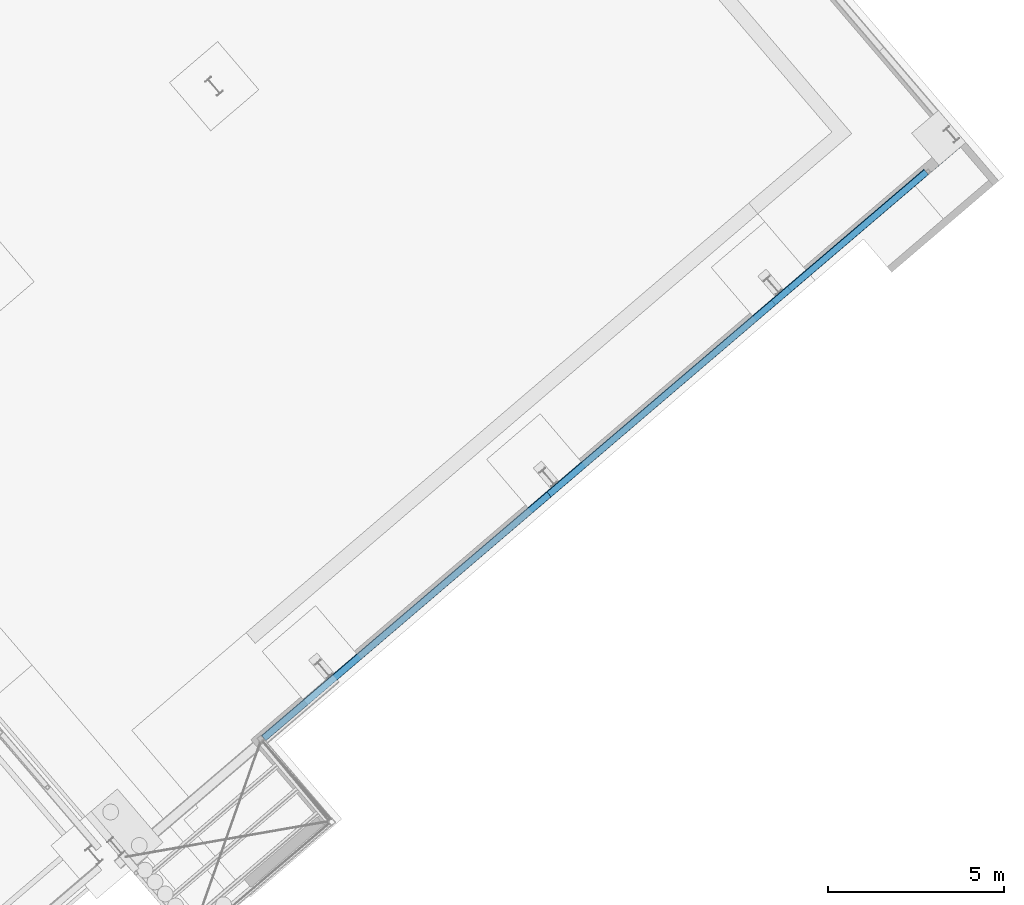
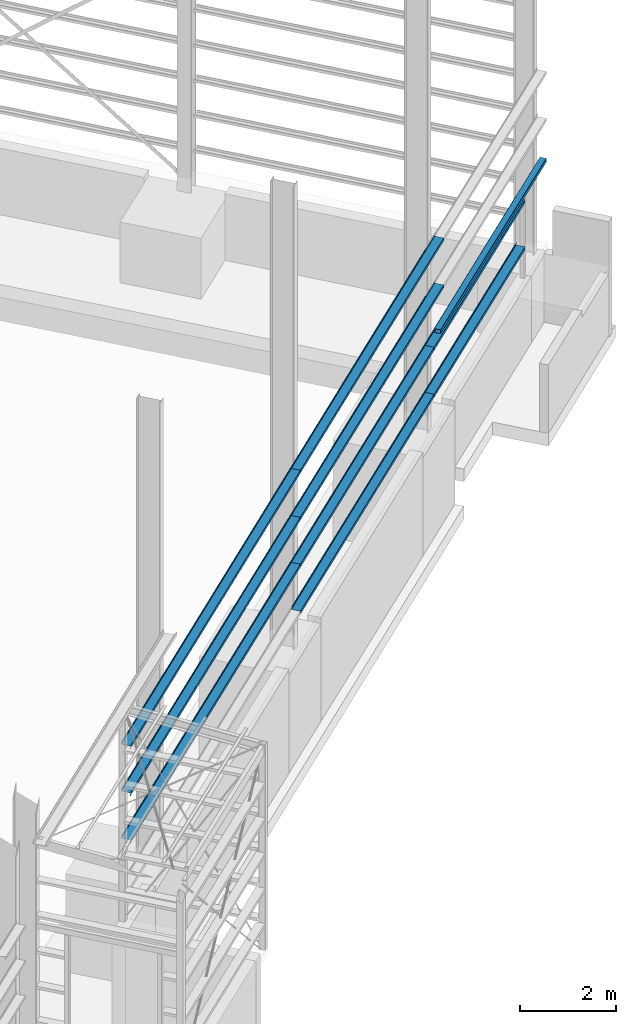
# One storey, part 23 of 41: 9 members, 1 beam.
"""IFC2X3 building model written with IfcOpenShell, lengths in millimetres."""

from ifc_helpers import new_model, entity, si_unit, converted_unit, derived_unit, direction, frame, frame_2d, origin, place, context, subcontext, project, spatial, polyline, circle_curve, parameter, trimmed, segment, composite_curve, outline, extrude, source, transform, mapped, material, type_object, type_shapes, element, save


model = new_model("IFC2X3")

# Units and contexts
model_context = context("Model", 3, precision=0.01, world=origin(), true_north=direction((6.123031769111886e-17, 1.0)))
body_context = subcontext(model_context, "Body", "Model", "MODEL_VIEW")
ifc_project = project(units=[si_unit("LENGTHUNIT", "METRE", prefix="MILLI"), si_unit("AREAUNIT", "SQUARE_METRE"), si_unit("VOLUMEUNIT", "CUBIC_METRE"), converted_unit("PLANEANGLEUNIT", "DEGREE", entity("IfcRatioMeasure", 0.017453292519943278), si_unit("PLANEANGLEUNIT", "RADIAN"), dimensions=[0, 0, 0, 0, 0, 0, 0]), si_unit("MASSUNIT", "GRAM", prefix="KILO"), derived_unit("MASSDENSITYUNIT", [(si_unit("MASSUNIT", "GRAM", prefix="KILO"), 1), (si_unit("LENGTHUNIT", "METRE"), -3)]), derived_unit("MOMENTOFINERTIAUNIT", [(si_unit("LENGTHUNIT", "METRE"), 4)]), si_unit("TIMEUNIT", "SECOND"), si_unit("FREQUENCYUNIT", "HERTZ"), si_unit("THERMODYNAMICTEMPERATUREUNIT", "DEGREE_CELSIUS"), derived_unit("THERMALTRANSMITTANCEUNIT", [(si_unit("MASSUNIT", "GRAM", prefix="KILO"), 1), (si_unit("THERMODYNAMICTEMPERATUREUNIT", "KELVIN"), -1), (si_unit("TIMEUNIT", "SECOND"), -3)]), derived_unit("VOLUMETRICFLOWRATEUNIT", [(si_unit("LENGTHUNIT", "METRE"), 3), (si_unit("TIMEUNIT", "SECOND"), -1)]), derived_unit("MASSFLOWRATEUNIT", [(si_unit("MASSUNIT", "GRAM", prefix="KILO"), 1), (si_unit("TIMEUNIT", "SECOND"), -1)]), derived_unit("ROTATIONALFREQUENCYUNIT", [(si_unit("TIMEUNIT", "SECOND"), -1)]), si_unit("ELECTRICCURRENTUNIT", "AMPERE"), si_unit("ELECTRICVOLTAGEUNIT", "VOLT"), si_unit("POWERUNIT", "WATT"), si_unit("FORCEUNIT", "NEWTON", prefix="KILO"), si_unit("ILLUMINANCEUNIT", "LUX"), si_unit("LUMINOUSFLUXUNIT", "LUMEN"), si_unit("LUMINOUSINTENSITYUNIT", "CANDELA"), derived_unit("USERDEFINED", [(si_unit("MASSUNIT", "GRAM", prefix="KILO"), -1), (si_unit("LENGTHUNIT", "METRE"), -2), (si_unit("TIMEUNIT", "SECOND"), 3), (si_unit("LUMINOUSFLUXUNIT", "LUMEN"), 1)]), derived_unit("SOUNDPOWERUNIT", [(si_unit("MASSUNIT", "GRAM", prefix="KILO"), 1), (si_unit("LENGTHUNIT", "METRE"), 2), (si_unit("TIMEUNIT", "SECOND"), -3)]), derived_unit("LINEARVELOCITYUNIT", [(si_unit("LENGTHUNIT", "METRE"), 1), (si_unit("TIMEUNIT", "SECOND"), -1)]), si_unit("PRESSUREUNIT", "PASCAL"), derived_unit("USERDEFINED", [(si_unit("LENGTHUNIT", "METRE"), -2), (si_unit("MASSUNIT", "GRAM", prefix="KILO"), 1), (si_unit("TIMEUNIT", "SECOND"), -2)]), derived_unit("LINEARFORCEUNIT", [(si_unit("MASSUNIT", "GRAM", prefix="KILO"), 1), (si_unit("LENGTHUNIT", "METRE"), 1), (si_unit("TIMEUNIT", "SECOND"), -2), (si_unit("LENGTHUNIT", "METRE"), -1)]), derived_unit("PLANARFORCEUNIT", [(si_unit("MASSUNIT", "GRAM", prefix="KILO"), 1), (si_unit("LENGTHUNIT", "METRE"), 1), (si_unit("TIMEUNIT", "SECOND"), -2), (si_unit("LENGTHUNIT", "METRE"), -2)])], contexts=[model_context])

# Site, building, storey
site_placement = place(None, frame((962.4174930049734, -6014.433753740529, 0.0), z_axis=(0.0, 0.0, 1.0), x_axis=(0.7601792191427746, 0.649713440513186, 0.0)))
site = spatial("IfcSite", under=ifc_project, at=site_placement, Name="Default", CompositionType="ELEMENT")
building_placement = place(site_placement, origin())
building = spatial("IfcBuilding", under=site, at=building_placement, CompositionType="ELEMENT")
storey_placement = place(building_placement, origin())
storey = spatial("IfcBuildingStorey", under=building, at=storey_placement, Name="Datum", CompositionType="ELEMENT", Elevation=0.0)

# Beam
ifc_material_1 = material(Name="Metal - Steel - 300 MPa")
beam_type = type_object("IfcBeamType", Name="ADSK_AU_RHS-Rectangular Hollow Sections (AS 1163_C350):150x100x5.0RHS", PredefinedType="NOTDEFINED")
beam_placement = place(building_placement, frame((179139.97854851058, -26178.4280821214, 2150.0)))
element("IfcBeam", 1, at=beam_placement, inside=storey, type_object=beam_type, material=ifc_material_1, Name="ADSK_AU_RHS-Rectangular Hollow Sections (AS 1163_C350):150x100x5.0RHS", ObjectType="ADSK_AU_RHS-Rectangular Hollow Sections (AS 1163_C350):150x100x5.0RHS", context=body_context, shape_type="SweptSolid", body=[
    extrude(outline(composite_curve([segment(trimmed(circle_curve(frame_2d((-37.500000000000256, -62.50000000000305), x_axis=(1.0, 0.0)), 12.5), [parameter(180.00000000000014)], [parameter(269.99999999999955)], True, "PARAMETER"), True, "CONTINUOUS"), segment(polyline([(-37.50000000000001, -75.0), (37.50000000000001, -75.0)]), True, "CONTINUOUS"), segment(trimmed(circle_curve(frame_2d((37.49999999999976, -62.500000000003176), x_axis=(1.0, 0.0)), 12.5), [parameter(269.9999999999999)], [parameter(0.0)], True, "PARAMETER"), True, "CONTINUOUS"), segment(polyline([(50.0, -62.5000000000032), (50.0, 62.49999999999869)]), True, "CONTINUOUS"), segment(trimmed(circle_curve(frame_2d((37.499999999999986, 62.499999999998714), x_axis=(1.0, 0.0)), 12.5), [parameter(359.9999999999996)], [parameter(89.99999999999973)], True, "PARAMETER"), True, "CONTINUOUS"), segment(polyline([(37.50000000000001, 75.0), (-37.50000000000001, 75.0)]), True, "CONTINUOUS"), segment(trimmed(circle_curve(frame_2d((-37.50000000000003, 62.49999999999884), x_axis=(1.0, 0.0)), 12.5), [parameter(90.00000000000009)], [parameter(180.00000000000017)], True, "PARAMETER"), True, "CONTINUOUS"), segment(polyline([(-50.0, 62.49999999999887), (-50.0, -62.50000000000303)]), True, "CONTINUOUS")], self_intersect=False), holes=[composite_curve([segment(polyline([(37.500000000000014, -70.0), (-37.49999999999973, -70.0)]), True, "CONTINUOUS"), segment(trimmed(circle_curve(frame_2d((-37.499999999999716, -62.50000000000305), x_axis=(1.0, 0.0)), 7.5), [parameter(180.0000000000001)], [parameter(269.9999999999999)], True, "PARAMETER"), False, "CONTINUOUS"), segment(polyline([(-45.0, -62.500000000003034), (-45.0, 62.499999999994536)]), True, "CONTINUOUS"), segment(trimmed(circle_curve(frame_2d((-37.49999999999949, 62.49999999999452), x_axis=(1.0, 0.0)), 7.5), [parameter(90.00000000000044)], [parameter(180.0000000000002)], True, "PARAMETER"), False, "CONTINUOUS"), segment(polyline([(-37.49999999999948, 70.0), (37.49999999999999, 70.0)]), True, "CONTINUOUS"), segment(trimmed(circle_curve(frame_2d((37.499999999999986, 62.499999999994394), x_axis=(1.0, 0.0)), 7.5), [parameter(0.0)], [parameter(90.00000000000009)], True, "PARAMETER"), False, "CONTINUOUS"), segment(polyline([(45.0, 62.49999999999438), (45.0, -62.50000000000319)]), True, "CONTINUOUS"), segment(trimmed(circle_curve(frame_2d((37.49999999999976, -62.500000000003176), x_axis=(1.0, 0.0)), 7.5), [parameter(270.00000000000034)], [parameter(4.0711099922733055e-13)], True, "PARAMETER"), False, "CONTINUOUS")], self_intersect=False)]), frame((103.4816561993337, -75.0, 0.0), z_axis=(1.0, 0.0, 0.0), x_axis=(0.0, 0.0, 1.0)), (0.0, 0.0, 1.0), 6639.228446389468),
])

# Members
ifc_material_2 = material(Name="Metal - Steel - 345 MPa")
member_type_1 = type_object("IfcMemberType", Name="ADSK_AU_Light Gauge-Zeds:Z20012", PredefinedType="BRACE", material=ifc_material_2)
shared_shape_1 = source(origin(), body_context, "Body", "SweptSolid", [
    extrude(outline(composite_curve([segment(polyline([(-98.30000000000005, -66.44000000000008), (-82.0, -66.44000000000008)]), True, "CONTINUOUS"), segment(polyline([(-82.0, -66.44000000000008), (-82.0, -65.24000000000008)]), True, "CONTINUOUS"), segment(polyline([(-82.0, -65.24000000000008), (-98.29999999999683, -65.24000000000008)]), True, "CONTINUOUS"), segment(trimmed(circle_curve(frame_2d((-98.30000000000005, -63.24000000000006), x_axis=(0.0, -1.0)), 2.0000000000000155), [parameter(270.00000000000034)], [parameter(0.0)], True, "PARAMETER"), False, "CONTINUOUS"), segment(polyline([(-100.3, -63.24000000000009), (-100.29999999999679, -6.440000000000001)]), True, "CONTINUOUS"), segment(trimmed(circle_curve(frame_2d((-98.29999999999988, -6.439999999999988), x_axis=(-1.0, 0.0)), 1.9999999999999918), [parameter(269.9999999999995)], [parameter(0.0)], True, "PARAMETER"), False, "CONTINUOUS"), segment(polyline([(-98.29999999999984, -4.439999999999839), (98.30000000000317, -4.439999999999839)]), True, "CONTINUOUS"), segment(trimmed(circle_curve(frame_2d((98.29999999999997, -1.239999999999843), x_axis=(0.0, -1.0)), 3.199999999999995), [parameter(0.0)], [parameter(90.00000000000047)], True, "PARAMETER"), True, "CONTINUOUS"), segment(polyline([(101.49999999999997, -1.2399999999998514), (101.50000000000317, 68.3599999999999)]), True, "CONTINUOUS"), segment(trimmed(circle_curve(frame_2d((98.29999999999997, 68.35999999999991), x_axis=(1.0, 0.0)), 3.2000000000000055), [parameter(0.0)], [parameter(90.00000000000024)], True, "PARAMETER"), True, "CONTINUOUS"), segment(polyline([(98.3, 71.5599999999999), (82.0, 71.5599999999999)]), True, "CONTINUOUS"), segment(polyline([(82.0, 71.5599999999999), (82.0, 70.3599999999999)]), True, "CONTINUOUS"), segment(polyline([(82.0, 70.3599999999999), (98.30000000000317, 70.3599999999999)]), True, "CONTINUOUS"), segment(trimmed(circle_curve(frame_2d((98.29999999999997, 68.35999999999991), x_axis=(0.0, 1.0)), 1.9999999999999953), [parameter(269.99999999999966)], [parameter(0.0)], True, "PARAMETER"), False, "CONTINUOUS"), segment(polyline([(100.29999999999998, 68.3599999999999), (100.30000000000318, -1.2399999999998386)]), True, "CONTINUOUS"), segment(trimmed(circle_curve(frame_2d((98.29999999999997, -1.2399999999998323), x_axis=(1.0, 0.0)), 2.000000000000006), [parameter(270.00000000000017)], [parameter(0.0)], True, "PARAMETER"), False, "CONTINUOUS"), segment(polyline([(98.3, -3.2399999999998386), (-98.29999999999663, -3.2399999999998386)]), True, "CONTINUOUS"), segment(trimmed(circle_curve(frame_2d((-98.29999999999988, -6.439999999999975), x_axis=(0.0, 1.0)), 3.200000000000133), [parameter(0.0)], [parameter(90.00000000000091)], True, "PARAMETER"), True, "CONTINUOUS"), segment(polyline([(-101.5, -6.440000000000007), (-101.49999999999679, -63.24000000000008)]), True, "CONTINUOUS"), segment(trimmed(circle_curve(frame_2d((-98.30000000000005, -63.24000000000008), x_axis=(-1.0, 0.0)), 3.200000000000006), [parameter(0.0)], [parameter(90.00000000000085)], True, "PARAMETER"), True, "CONTINUOUS")], self_intersect=False)), frame((-4584.499999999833, 4.439999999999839, 0.0), z_axis=(1.0, 0.0, 0.0), x_axis=(0.0, 0.0, -1.0)), (0.0, 0.0, 1.0), 8999.999999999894),
])
type_shapes(member_type_1, [shared_shape_1])
for number, where, z_axis, x_axis, name in (
    (2, (175023.46020471, -26224.928082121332, 4422.39999999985), (0.0, 1.0, 0.0), (1.0, 0.0, 0.0), "ADSK_AU_Light Gauge-Zeds:Z20012"),
    (3, (175023.46020471, -26224.928082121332, 3222.39999999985), (0.0, 1.0, 0.0), (1.0, 0.0, 0.0), "ADSK_AU_Light Gauge-Zeds:Z20012"),
    (4, (175023.46020471, -26224.928082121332, 2022.3999999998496), (0.0, 1.0, 0.0), (1.0, 0.0, 0.0), "ADSK_AU_Light Gauge-Zeds:Z20012"),
    (5, (175023.46020471, -26224.928082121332, 822.3999999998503), (0.0, 1.0, 0.0), (1.0, 0.0, 0.0), "ADSK_AU_Light Gauge-Zeds:Z20012"),
):
    element("IfcMember", number, at=place(storey_placement, frame(where, z_axis=z_axis, x_axis=x_axis)), inside=storey, type_object=member_type_1, material=ifc_material_2, Name=name, ObjectType="ADSK_AU_Light Gauge-Zeds:Z20012", context=body_context, shape_type="MappedRepresentation", body=[
        mapped(shared_shape_1, transform((0.0, 0.0, 0.0), scale=1.0)),
    ])
member_type_2 = type_object("IfcMemberType", Name="ADSK_AU_Light Gauge-Zeds:Z20015", PredefinedType="BRACE", material=ifc_material_2)
shared_shape_2 = source(origin(), body_context, "Body", "SweptSolid", [
    extrude(outline(composite_curve([segment(polyline([(-98.0, -67.50000000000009), (-81.50000000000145, -67.50000000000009)]), True, "CONTINUOUS"), segment(polyline([(-81.49999999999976, -67.50000000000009), (-81.50000000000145, -66.0)]), True, "CONTINUOUS"), segment(polyline([(-81.49999999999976, -66.0), (-98.0, -66.0)]), True, "CONTINUOUS"), segment(trimmed(circle_curve(frame_2d((-98.0, -64.0), x_axis=(0.0, -1.0)), 1.9999999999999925), [parameter(269.99999999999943)], [parameter(0.0)], True, "PARAMETER"), False, "CONTINUOUS"), segment(polyline([(-100.0, -64.0), (-100.0, -6.500000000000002)]), True, "CONTINUOUS"), segment(trimmed(circle_curve(frame_2d((-98.0, -6.500000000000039), x_axis=(-1.0, 0.0)), 2.000000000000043), [parameter(270.000000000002)], [parameter(0.0)], True, "PARAMETER"), False, "CONTINUOUS"), segment(polyline([(-98.0, -4.499999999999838), (98.0, -4.499999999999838)]), True, "CONTINUOUS"), segment(trimmed(circle_curve(frame_2d((98.0, -1.0), x_axis=(0.0, -1.0)), 3.500000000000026), [parameter(0.0)], [parameter(89.99999999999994)], True, "PARAMETER"), True, "CONTINUOUS"), segment(polyline([(101.5, -1.0), (101.4999999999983, 69.0)]), True, "CONTINUOUS"), segment(trimmed(circle_curve(frame_2d((98.0, 69.0), x_axis=(1.0, 0.0)), 3.4999999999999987), [parameter(0.0)], [parameter(90.00000000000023)], True, "PARAMETER"), True, "CONTINUOUS"), segment(polyline([(98.0, 72.49999999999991), (81.499999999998, 72.49999999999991)]), True, "CONTINUOUS"), segment(polyline([(81.49999999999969, 72.49999999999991), (81.499999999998, 71.0)]), True, "CONTINUOUS"), segment(polyline([(81.49999999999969, 71.0), (98.0, 71.0)]), True, "CONTINUOUS"), segment(trimmed(circle_curve(frame_2d((98.0, 69.0), x_axis=(0.0, 1.0)), 2.000000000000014), [parameter(270.00000000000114)], [parameter(0.0)], True, "PARAMETER"), False, "CONTINUOUS"), segment(polyline([(100.0, 69.0), (100.0, -1.0)]), True, "CONTINUOUS"), segment(trimmed(circle_curve(frame_2d((98.0, -1.0), x_axis=(1.0, 0.0)), 1.9999999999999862), [parameter(269.99999999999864)], [parameter(0.0)], True, "PARAMETER"), False, "CONTINUOUS"), segment(polyline([(98.0, -3.0), (-98.0, -3.0)]), True, "CONTINUOUS"), segment(trimmed(circle_curve(frame_2d((-98.0, -6.5000000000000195), x_axis=(0.0, 1.0)), 3.500000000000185), [parameter(0.0)], [parameter(89.9999999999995)], True, "PARAMETER"), True, "CONTINUOUS"), segment(polyline([(-101.50000000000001, -6.500000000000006), (-101.5000000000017, -64.0)]), True, "CONTINUOUS"), segment(trimmed(circle_curve(frame_2d((-98.0, -64.0), x_axis=(-1.0, 0.0)), 3.4999999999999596), [parameter(0.0)], [parameter(90.00000000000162)], True, "PARAMETER"), True, "CONTINUOUS")], self_intersect=False)), frame((-1854.4999999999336, 4.499999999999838, 0.0), z_axis=(1.0, 0.0, 0.0), x_axis=(0.0, 0.0, -1.0)), (0.0, 0.0, 1.0), 5710.699999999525),
])
type_shapes(member_type_2, [shared_shape_2])
member_1_placement = place(storey_placement, frame((180693.46020471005, -26224.928082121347, 822.8999999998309), z_axis=(0.0, 1.0, 0.0), x_axis=(1.0, 0.0, 0.0)))
element("IfcMember", 6, at=member_1_placement, inside=storey, type_object=member_type_2, material=ifc_material_2, Name="ADSK_AU_Light Gauge-Zeds:Z20015", ObjectType="ADSK_AU_Light Gauge-Zeds:Z20015", context=body_context, shape_type="MappedRepresentation", body=[
    mapped(shared_shape_2, transform((0.0, 0.0, 0.0), scale=1.0)),
])
member_type_3 = type_object("IfcMemberType", Name="ADSK_AU_Light Gauge-Zeds:Z20015", PredefinedType="BRACE", material=ifc_material_2)
shared_shape_3 = source(origin(), body_context, "Body", "SweptSolid", [
    extrude(outline(composite_curve([segment(polyline([(-98.0, -67.50000000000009), (-81.49999999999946, -67.50000000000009)]), True, "CONTINUOUS"), segment(polyline([(-81.49999999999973, -67.50000000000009), (-81.49999999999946, -66.0)]), True, "CONTINUOUS"), segment(polyline([(-81.49999999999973, -66.0), (-98.0, -66.0)]), True, "CONTINUOUS"), segment(trimmed(circle_curve(frame_2d((-98.0, -64.0), x_axis=(0.0, -1.0)), 2.0000000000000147), [parameter(270.00000000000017)], [parameter(0.0)], True, "PARAMETER"), False, "CONTINUOUS"), segment(polyline([(-100.0, -64.0), (-100.0, -6.500000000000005)]), True, "CONTINUOUS"), segment(trimmed(circle_curve(frame_2d((-98.0, -6.500000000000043), x_axis=(-1.0, 0.0)), 2.000000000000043), [parameter(270.000000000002)], [parameter(0.0)], True, "PARAMETER"), False, "CONTINUOUS"), segment(polyline([(-98.0, -4.499999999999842), (98.0, -4.499999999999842)]), True, "CONTINUOUS"), segment(trimmed(circle_curve(frame_2d((98.0, -1.0), x_axis=(0.0, -1.0)), 3.500000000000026), [parameter(0.0)], [parameter(89.99999999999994)], True, "PARAMETER"), True, "CONTINUOUS"), segment(polyline([(101.49999999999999, -1.0), (101.50000000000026, 69.0)]), True, "CONTINUOUS"), segment(trimmed(circle_curve(frame_2d((98.0, 69.0), x_axis=(1.0, 0.0)), 3.4999999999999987), [parameter(0.0)], [parameter(90.00000000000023)], True, "PARAMETER"), True, "CONTINUOUS"), segment(polyline([(98.0, 72.49999999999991), (81.49999999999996, 72.49999999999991)]), True, "CONTINUOUS"), segment(polyline([(81.49999999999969, 72.49999999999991), (81.49999999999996, 71.0)]), True, "CONTINUOUS"), segment(polyline([(81.49999999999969, 71.0), (98.0, 71.0)]), True, "CONTINUOUS"), segment(trimmed(circle_curve(frame_2d((98.0, 69.0), x_axis=(0.0, 1.0)), 2.000000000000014), [parameter(270.00000000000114)], [parameter(0.0)], True, "PARAMETER"), False, "CONTINUOUS"), segment(polyline([(100.0, 69.0), (100.0, -1.0)]), True, "CONTINUOUS"), segment(trimmed(circle_curve(frame_2d((98.0, -1.0), x_axis=(1.0, 0.0)), 1.9999999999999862), [parameter(269.99999999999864)], [parameter(0.0)], True, "PARAMETER"), False, "CONTINUOUS"), segment(polyline([(98.0, -3.0), (-98.0, -3.0)]), True, "CONTINUOUS"), segment(trimmed(circle_curve(frame_2d((-98.0, -6.499999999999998), x_axis=(0.0, 1.0)), 3.5000000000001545), [parameter(0.0)], [parameter(89.99999999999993)], True, "PARAMETER"), True, "CONTINUOUS"), segment(polyline([(-101.50000000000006, -6.50000000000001), (-101.49999999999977, -64.0)]), True, "CONTINUOUS"), segment(trimmed(circle_curve(frame_2d((-98.0, -64.0), x_axis=(-1.0, 0.0)), 3.500000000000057), [parameter(0.0)], [parameter(89.99999999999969)], True, "PARAMETER"), True, "CONTINUOUS")], self_intersect=False)), frame((-3654.4999999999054, 4.499999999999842, 0.0), z_axis=(1.0, 0.0, 0.0), x_axis=(0.0, 0.0, -1.0)), (0.0, 0.0, 1.0), 5710.699999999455),
])
type_shapes(member_type_3, [shared_shape_3])
member_2_placement = place(storey_placement, frame((182493.46020471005, -26224.928082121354, 2022.8999999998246), z_axis=(0.0, 1.0, 0.0), x_axis=(1.0, 0.0, 0.0)))
element("IfcMember", 7, at=member_2_placement, inside=storey, type_object=member_type_3, material=ifc_material_2, Name="ADSK_AU_Light Gauge-Zeds:Z20015", ObjectType="ADSK_AU_Light Gauge-Zeds:Z20015", context=body_context, shape_type="MappedRepresentation", body=[
    mapped(shared_shape_3, transform((0.0, 0.0, 0.0), scale=1.0)),
])
member_type_4 = type_object("IfcMemberType", Name="ADSK_AU_Light Gauge-Zeds:Z20012", PredefinedType="BRACE", material=ifc_material_2)
shared_shape_4 = source(origin(), body_context, "Body", "SweptSolid", [
    extrude(outline(composite_curve([segment(polyline([(-98.30000000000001, -66.44000000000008), (-82.0, -66.44000000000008)]), True, "CONTINUOUS"), segment(polyline([(-82.0, -66.44000000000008), (-82.0, -65.24000000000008)]), True, "CONTINUOUS"), segment(polyline([(-82.0, -65.24000000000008), (-98.29999999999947, -65.24000000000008)]), True, "CONTINUOUS"), segment(trimmed(circle_curve(frame_2d((-98.30000000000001, -63.24000000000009), x_axis=(0.0, -1.0)), 1.999999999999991), [parameter(269.99999999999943)], [parameter(0.0)], True, "PARAMETER"), False, "CONTINUOUS"), segment(polyline([(-100.3, -63.24000000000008), (-100.29999999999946, -6.439999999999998)]), True, "CONTINUOUS"), segment(trimmed(circle_curve(frame_2d((-98.29999999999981, -6.440000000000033), x_axis=(-1.0, 0.0)), 2.000000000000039), [parameter(270.0000000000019)], [parameter(0.0)], True, "PARAMETER"), False, "CONTINUOUS"), segment(polyline([(-98.29999999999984, -4.439999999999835), (98.30000000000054, -4.439999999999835)]), True, "CONTINUOUS"), segment(trimmed(circle_curve(frame_2d((98.29999999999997, -1.2399999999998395), x_axis=(0.0, -1.0)), 3.199999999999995), [parameter(0.0)], [parameter(90.00000000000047)], True, "PARAMETER"), True, "CONTINUOUS"), segment(polyline([(101.49999999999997, -1.239999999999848), (101.50000000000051, 68.3599999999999)]), True, "CONTINUOUS"), segment(trimmed(circle_curve(frame_2d((98.29999999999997, 68.35999999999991), x_axis=(1.0, 0.0)), 3.2000000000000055), [parameter(0.0)], [parameter(90.00000000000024)], True, "PARAMETER"), True, "CONTINUOUS"), segment(polyline([(98.3, 71.5599999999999), (82.0, 71.5599999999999)]), True, "CONTINUOUS"), segment(polyline([(82.0, 71.5599999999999), (82.0, 70.3599999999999)]), True, "CONTINUOUS"), segment(polyline([(82.0, 70.3599999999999), (98.30000000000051, 70.3599999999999)]), True, "CONTINUOUS"), segment(trimmed(circle_curve(frame_2d((98.29999999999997, 68.35999999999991), x_axis=(0.0, 1.0)), 1.9999999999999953), [parameter(269.99999999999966)], [parameter(0.0)], True, "PARAMETER"), False, "CONTINUOUS"), segment(polyline([(100.29999999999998, 68.3599999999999), (100.30000000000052, -1.239999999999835)]), True, "CONTINUOUS"), segment(trimmed(circle_curve(frame_2d((98.29999999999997, -1.2399999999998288), x_axis=(1.0, 0.0)), 2.000000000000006), [parameter(270.00000000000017)], [parameter(0.0)], True, "PARAMETER"), False, "CONTINUOUS"), segment(polyline([(98.3, -3.239999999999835), (-98.2999999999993, -3.239999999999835)]), True, "CONTINUOUS"), segment(trimmed(circle_curve(frame_2d((-98.29999999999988, -6.439999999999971), x_axis=(0.0, 1.0)), 3.200000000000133), [parameter(0.0)], [parameter(90.00000000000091)], True, "PARAMETER"), True, "CONTINUOUS"), segment(polyline([(-101.5, -6.440000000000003), (-101.49999999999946, -63.24000000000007)]), True, "CONTINUOUS"), segment(trimmed(circle_curve(frame_2d((-98.30000000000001, -63.240000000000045), x_axis=(-1.0, 0.0)), 3.2000000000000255), [parameter(0.0)], [parameter(89.99999999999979)], True, "PARAMETER"), True, "CONTINUOUS")], self_intersect=False)), frame((-5924.500000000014, 4.439999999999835, 0.0), z_axis=(1.0, 0.0, 0.0), x_axis=(0.0, 0.0, -1.0)), (0.0, 0.0, 1.0), 11270.00000000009),
])
type_shapes(member_type_4, [shared_shape_4])
member_3_placement = place(storey_placement, frame((165693.46020471, -26224.9280821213, 2022.3999999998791), z_axis=(0.0, 1.0, 0.0), x_axis=(1.0, 0.0, 0.0)))
element("IfcMember", 8, at=member_3_placement, inside=storey, type_object=member_type_4, material=ifc_material_2, Name="ADSK_AU_Light Gauge-Zeds:Z20012", ObjectType="ADSK_AU_Light Gauge-Zeds:Z20012", context=body_context, shape_type="MappedRepresentation", body=[
    mapped(shared_shape_4, transform((0.0, 0.0, 0.0), scale=1.0)),
])
member_type_5 = type_object("IfcMemberType", Name="ADSK_AU_Light Gauge-Zeds:Z20012", PredefinedType="BRACE", material=ifc_material_2)
shared_shape_5 = source(origin(), body_context, "Body", "SweptSolid", [
    extrude(outline(composite_curve([segment(polyline([(-98.30000000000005, -66.44000000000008), (-82.0, -66.44000000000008)]), True, "CONTINUOUS"), segment(polyline([(-82.0, -66.44000000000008), (-82.0, -65.24000000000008)]), True, "CONTINUOUS"), segment(polyline([(-82.0, -65.24000000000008), (-98.30000000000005, -65.24000000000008)]), True, "CONTINUOUS"), segment(trimmed(circle_curve(frame_2d((-98.30000000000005, -63.24000000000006), x_axis=(0.0, -1.0)), 2.0000000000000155), [parameter(270.00000000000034)], [parameter(0.0)], True, "PARAMETER"), False, "CONTINUOUS"), segment(polyline([(-100.3, -63.24000000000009), (-100.3, -6.440000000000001)]), True, "CONTINUOUS"), segment(trimmed(circle_curve(frame_2d((-98.29999999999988, -6.439999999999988), x_axis=(-1.0, 0.0)), 1.9999999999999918), [parameter(269.9999999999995)], [parameter(0.0)], True, "PARAMETER"), False, "CONTINUOUS"), segment(polyline([(-98.29999999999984, -4.439999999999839), (98.3, -4.439999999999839)]), True, "CONTINUOUS"), segment(trimmed(circle_curve(frame_2d((98.29999999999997, -1.239999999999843), x_axis=(0.0, -1.0)), 3.199999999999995), [parameter(0.0)], [parameter(90.00000000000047)], True, "PARAMETER"), True, "CONTINUOUS"), segment(polyline([(101.49999999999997, -1.2399999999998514), (101.49999999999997, 68.3599999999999)]), True, "CONTINUOUS"), segment(trimmed(circle_curve(frame_2d((98.29999999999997, 68.35999999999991), x_axis=(1.0, 0.0)), 3.2000000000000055), [parameter(0.0)], [parameter(90.00000000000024)], True, "PARAMETER"), True, "CONTINUOUS"), segment(polyline([(98.3, 71.5599999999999), (82.0, 71.5599999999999)]), True, "CONTINUOUS"), segment(polyline([(82.0, 71.5599999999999), (82.0, 70.3599999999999)]), True, "CONTINUOUS"), segment(polyline([(82.0, 70.3599999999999), (98.29999999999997, 70.3599999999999)]), True, "CONTINUOUS"), segment(trimmed(circle_curve(frame_2d((98.29999999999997, 68.35999999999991), x_axis=(0.0, 1.0)), 1.9999999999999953), [parameter(269.99999999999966)], [parameter(0.0)], True, "PARAMETER"), False, "CONTINUOUS"), segment(polyline([(100.29999999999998, 68.3599999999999), (100.29999999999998, -1.2399999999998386)]), True, "CONTINUOUS"), segment(trimmed(circle_curve(frame_2d((98.29999999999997, -1.2399999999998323), x_axis=(1.0, 0.0)), 2.000000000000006), [parameter(270.00000000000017)], [parameter(0.0)], True, "PARAMETER"), False, "CONTINUOUS"), segment(polyline([(98.3, -3.2399999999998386), (-98.29999999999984, -3.2399999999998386)]), True, "CONTINUOUS"), segment(trimmed(circle_curve(frame_2d((-98.29999999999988, -6.439999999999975), x_axis=(0.0, 1.0)), 3.200000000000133), [parameter(0.0)], [parameter(90.00000000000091)], True, "PARAMETER"), True, "CONTINUOUS"), segment(polyline([(-101.5, -6.440000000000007), (-101.5, -63.24000000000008)]), True, "CONTINUOUS"), segment(trimmed(circle_curve(frame_2d((-98.30000000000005, -63.24000000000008), x_axis=(-1.0, 0.0)), 3.200000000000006), [parameter(0.0)], [parameter(90.00000000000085)], True, "PARAMETER"), True, "CONTINUOUS")], self_intersect=False)), frame((-5784.499999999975, 4.439999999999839, 0.0), z_axis=(1.0, 0.0, 0.0), x_axis=(0.0, 0.0, -1.0)), (0.0, 0.0, 1.0), 11130.000000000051),
])
type_shapes(member_type_5, [shared_shape_5])
member_4_placement = place(storey_placement, frame((165553.46020470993, -26224.9280821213, 3222.399999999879), z_axis=(0.0, 1.0, 0.0), x_axis=(1.0, 0.0, 0.0)))
element("IfcMember", 9, at=member_4_placement, inside=storey, type_object=member_type_5, material=ifc_material_2, Name="ADSK_AU_Light Gauge-Zeds:Z20012", ObjectType="ADSK_AU_Light Gauge-Zeds:Z20012", context=body_context, shape_type="MappedRepresentation", body=[
    mapped(shared_shape_5, transform((0.0, 0.0, 0.0), scale=1.0)),
])
member_type_6 = type_object("IfcMemberType", Name="ADSK_AU_Light Gauge-Zeds:Z20012", PredefinedType="BRACE", material=ifc_material_2)
shared_shape_6 = source(origin(), body_context, "Body", "SweptSolid", [
    extrude(outline(composite_curve([segment(polyline([(-98.30000000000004, -66.44000000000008), (-82.0, -66.44000000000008)]), True, "CONTINUOUS"), segment(polyline([(-82.0, -66.44000000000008), (-82.0, -65.24000000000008)]), True, "CONTINUOUS"), segment(polyline([(-82.0, -65.24000000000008), (-98.2999999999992, -65.24000000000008)]), True, "CONTINUOUS"), segment(trimmed(circle_curve(frame_2d((-98.30000000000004, -63.24000000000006), x_axis=(0.0, -1.0)), 2.0000000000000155), [parameter(270.00000000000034)], [parameter(0.0)], True, "PARAMETER"), False, "CONTINUOUS"), segment(polyline([(-100.3, -63.24000000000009), (-100.29999999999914, -6.440000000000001)]), True, "CONTINUOUS"), segment(trimmed(circle_curve(frame_2d((-98.29999999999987, -6.439999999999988), x_axis=(-1.0, 0.0)), 1.9999999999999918), [parameter(269.9999999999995)], [parameter(0.0)], True, "PARAMETER"), False, "CONTINUOUS"), segment(polyline([(-98.29999999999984, -4.439999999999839), (98.30000000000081, -4.439999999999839)]), True, "CONTINUOUS"), segment(trimmed(circle_curve(frame_2d((98.29999999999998, -1.239999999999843), x_axis=(0.0, -1.0)), 3.199999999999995), [parameter(0.0)], [parameter(90.00000000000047)], True, "PARAMETER"), True, "CONTINUOUS"), segment(polyline([(101.49999999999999, -1.2399999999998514), (101.50000000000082, 68.3599999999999)]), True, "CONTINUOUS"), segment(trimmed(circle_curve(frame_2d((98.29999999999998, 68.35999999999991), x_axis=(1.0, 0.0)), 3.2000000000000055), [parameter(0.0)], [parameter(90.00000000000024)], True, "PARAMETER"), True, "CONTINUOUS"), segment(polyline([(98.3, 71.5599999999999), (82.0, 71.5599999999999)]), True, "CONTINUOUS"), segment(polyline([(82.0, 71.5599999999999), (82.0, 70.3599999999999)]), True, "CONTINUOUS"), segment(polyline([(82.0, 70.3599999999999), (98.30000000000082, 70.3599999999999)]), True, "CONTINUOUS"), segment(trimmed(circle_curve(frame_2d((98.29999999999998, 68.35999999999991), x_axis=(0.0, 1.0)), 1.9999999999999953), [parameter(269.99999999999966)], [parameter(0.0)], True, "PARAMETER"), False, "CONTINUOUS"), segment(polyline([(100.29999999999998, 68.3599999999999), (100.30000000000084, -1.2399999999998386)]), True, "CONTINUOUS"), segment(trimmed(circle_curve(frame_2d((98.29999999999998, -1.2399999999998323), x_axis=(1.0, 0.0)), 2.000000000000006), [parameter(270.00000000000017)], [parameter(0.0)], True, "PARAMETER"), False, "CONTINUOUS"), segment(polyline([(98.3, -3.2399999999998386), (-98.29999999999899, -3.2399999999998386)]), True, "CONTINUOUS"), segment(trimmed(circle_curve(frame_2d((-98.29999999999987, -6.439999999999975), x_axis=(0.0, 1.0)), 3.200000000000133), [parameter(0.0)], [parameter(90.00000000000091)], True, "PARAMETER"), True, "CONTINUOUS"), segment(polyline([(-101.49999999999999, -6.440000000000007), (-101.49999999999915, -63.24000000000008)]), True, "CONTINUOUS"), segment(trimmed(circle_curve(frame_2d((-98.30000000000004, -63.24000000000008), x_axis=(-1.0, 0.0)), 3.200000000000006), [parameter(0.0)], [parameter(90.00000000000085)], True, "PARAMETER"), True, "CONTINUOUS")], self_intersect=False)), frame((-5674.5000000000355, 4.439999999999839, 0.0), z_axis=(1.0, 0.0, 0.0), x_axis=(0.0, 0.0, -1.0)), (0.0, 0.0, 1.0), 11270.00000000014),
])
type_shapes(member_type_6, [shared_shape_6])
member_5_placement = place(storey_placement, frame((165443.46020470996, -26224.9280821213, 4422.3999999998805), z_axis=(0.0, 1.0, 0.0), x_axis=(1.0, 0.0, 0.0)))
element("IfcMember", 10, at=member_5_placement, inside=storey, type_object=member_type_6, material=ifc_material_2, Name="ADSK_AU_Light Gauge-Zeds:Z20012", ObjectType="ADSK_AU_Light Gauge-Zeds:Z20012", context=body_context, shape_type="MappedRepresentation", body=[
    mapped(shared_shape_6, transform((0.0, 0.0, 0.0), scale=1.0)),
])

save(model, "model.ifc")
